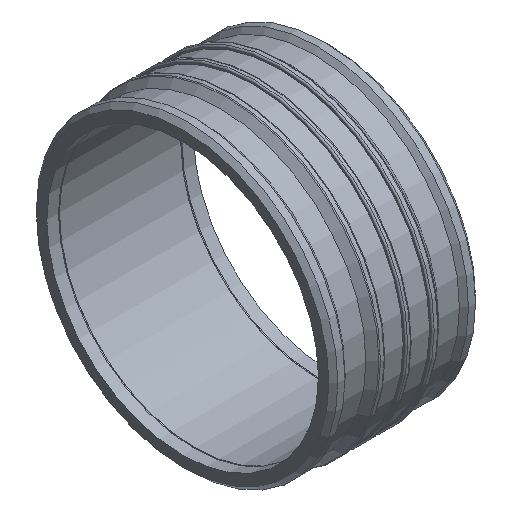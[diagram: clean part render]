
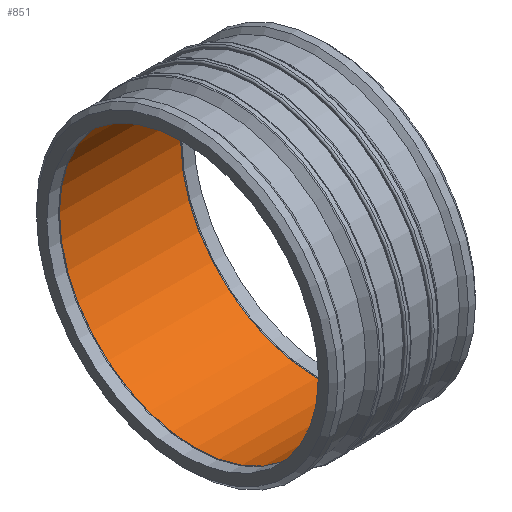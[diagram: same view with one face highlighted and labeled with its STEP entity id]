
A CAD part, isometric view. The second image highlights one B-rep face of the part: STEP entity #851.
In plain terms, the highlighted cylindrical face has radius 500 mm (diameter 1000 mm), a full revolution.
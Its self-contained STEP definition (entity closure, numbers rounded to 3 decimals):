
#62=LINE('',#1659,#86);
#86=VECTOR('',#1318,500.);
#107=CYLINDRICAL_SURFACE('',#1011,500.);
#159=FACE_OUTER_BOUND('',#220,.T.);
#220=EDGE_LOOP('',(#771,#772,#773,#774,#775,#776));
#315=CIRCLE('',#1009,500.);
#316=CIRCLE('',#1010,500.);
#317=CIRCLE('',#1012,500.);
#318=CIRCLE('',#1013,500.);
#407=VERTEX_POINT('',#1653);
#408=VERTEX_POINT('',#1654);
#409=VERTEX_POINT('',#1658);
#410=VERTEX_POINT('',#1660);
#530=EDGE_CURVE('',#407,#408,#315,.T.);
#531=EDGE_CURVE('',#408,#407,#316,.T.);
#532=EDGE_CURVE('',#408,#409,#62,.T.);
#533=EDGE_CURVE('',#410,#409,#317,.T.);
#534=EDGE_CURVE('',#409,#410,#318,.T.);
#771=ORIENTED_EDGE('',*,*,#530,.T.);
#772=ORIENTED_EDGE('',*,*,#532,.T.);
#773=ORIENTED_EDGE('',*,*,#533,.F.);
#774=ORIENTED_EDGE('',*,*,#534,.F.);
#775=ORIENTED_EDGE('',*,*,#532,.F.);
#776=ORIENTED_EDGE('',*,*,#531,.T.);
#851=ADVANCED_FACE('',(#159),#107,.F.);
#1009=AXIS2_PLACEMENT_3D('',#1655,#1312,#1313);
#1010=AXIS2_PLACEMENT_3D('',#1656,#1314,#1315);
#1011=AXIS2_PLACEMENT_3D('',#1657,#1316,#1317);
#1012=AXIS2_PLACEMENT_3D('',#1661,#1319,#1320);
#1013=AXIS2_PLACEMENT_3D('',#1662,#1321,#1322);
#1312=DIRECTION('center_axis',(1.,0.,0.));
#1313=DIRECTION('ref_axis',(0.,0.,-1.));
#1314=DIRECTION('center_axis',(1.,0.,0.));
#1315=DIRECTION('ref_axis',(0.,0.,-1.));
#1316=DIRECTION('center_axis',(1.,0.,0.));
#1317=DIRECTION('ref_axis',(0.,1.,0.));
#1318=DIRECTION('',(-1.,0.,0.));
#1319=DIRECTION('center_axis',(1.,0.,0.));
#1320=DIRECTION('ref_axis',(0.,0.,-1.));
#1321=DIRECTION('center_axis',(1.,0.,0.));
#1322=DIRECTION('ref_axis',(0.,0.,-1.));
#1653=CARTESIAN_POINT('',(223.724,500.,0.));
#1654=CARTESIAN_POINT('',(223.724,-500.,0.));
#1655=CARTESIAN_POINT('Origin',(223.724,0.,0.));
#1656=CARTESIAN_POINT('Origin',(223.724,0.,0.));
#1657=CARTESIAN_POINT('Origin',(-111.862,0.,
0.));
#1658=CARTESIAN_POINT('',(-223.724,-500.,0.));
#1659=CARTESIAN_POINT('',(-111.862,-500.,0.));
#1660=CARTESIAN_POINT('',(-223.724,500.,0.));
#1661=CARTESIAN_POINT('Origin',(-223.724,0.,
0.));
#1662=CARTESIAN_POINT('Origin',(-223.724,0.,
0.));
